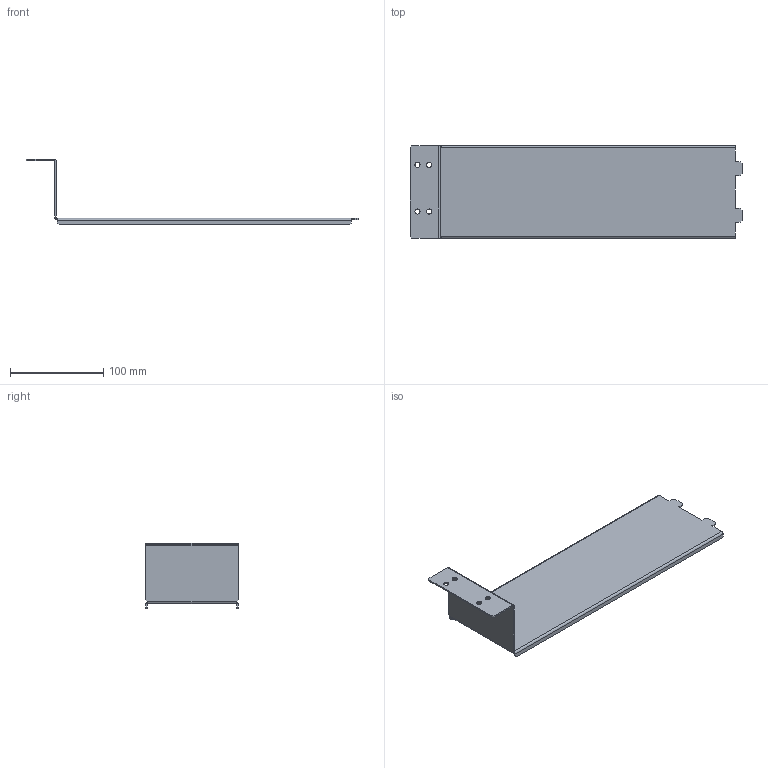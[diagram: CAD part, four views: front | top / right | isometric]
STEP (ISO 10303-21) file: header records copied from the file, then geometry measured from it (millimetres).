
FILE_DESCRIPTION(('CAx-IF Rec.Pracs.---Model Styling and Organization---1.2---2011-12-15','CAx-IF Rec.Pracs.---Geometric and Assembly Validation Properties---4.1---2014-06-16','CAx-IF Rec.Pracs.---PMI Polyline Presentation---2.0---2013-05-24'),'2;1');
FILE_NAME('R5M2SPCC2M.stp','2021-05-05T11:52:55+03:00',(''),(''),'STEP Interface 4.4 by CT CoreTechnologie','3D_Evolution4.4 by CT CoreTechnologie','');
FILE_SCHEMA(('AUTOMOTIVE_DESIGN { 1 0 10303 214 1 1 1 1 }'));
Length unit declared in the file: millimetre
Products named in the file (2): R5M2SPCC2M; RB.1398.00.00.0_-00
Assembly tree (1 placements, depth 2):
  R5M2SPCC2M
    RB.1398.00.00.0_-00
Bounding box: 356 x 99 x 70.5 mm (x, y, z)
Surface area: 89798.2 mm2 (no closed solid volume)
Topology: 0 solids, 2 shells, 66 faces, 170 edges, 108 vertices
Faces by surface type: plane 50, cylinder 16
Entity records: 2065 total; most frequent: CARTESIAN_POINT 346, ORIENTED_EDGE 340, DIRECTION 338, EDGE_CURVE 170, VECTOR 138, LINE 138, VERTEX_POINT 108, AXIS2_PLACEMENT_3D 100
